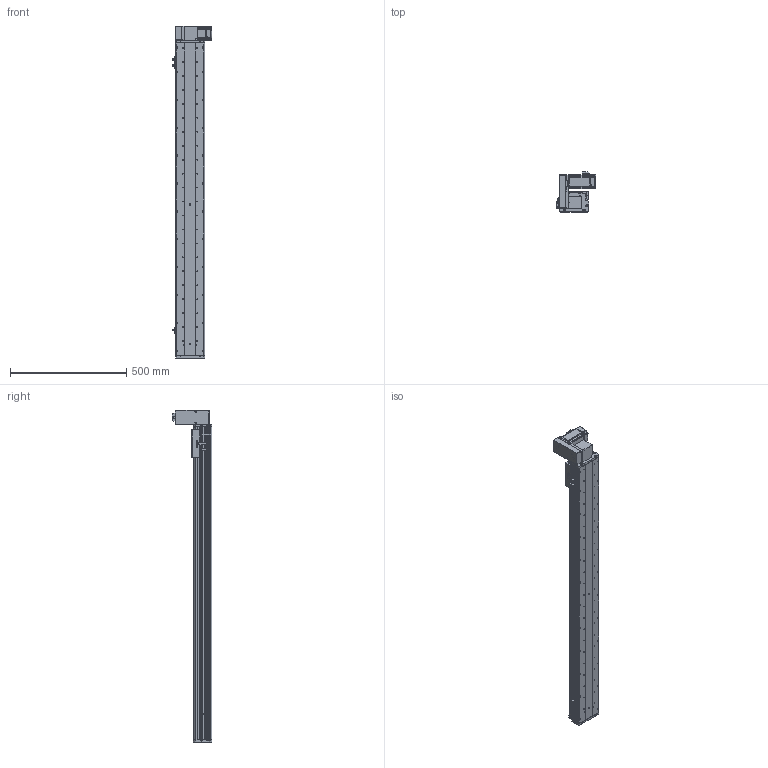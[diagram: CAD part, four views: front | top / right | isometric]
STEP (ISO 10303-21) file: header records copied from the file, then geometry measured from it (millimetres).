
FILE_DESCRIPTION (( 'STEP AP214' ), '1' );
FILE_NAME ('KSD125B-S1150-MRU-CM.STEP', '2017-10-21T07:43:26', ( '微软用户' ), ( '微软中国' ), 'SwSTEP 2.0', 'SolidWorks 2014', '' );
FILE_SCHEMA (( 'AUTOMOTIVE_DESIGN' ));
Length unit declared in the file: millimetre
Products named in the file (18): 125模组同步带-尾端板1; KSD125模组同步带-滑动座1; KSD125B-S1150-MRU-CM; 悵誘欶奻狟殏; HTPA30S3M150_A_H6_a佪裝蚚; HTPA30S3M150_A_H6_a萇儂蚚; 100宽马达安装板连板上下折丝杆同步带; KSD125模组1150行程同步带-防尘盖; 125模组1150行程同步带-底板; MHMD042G1CA_2_03; KSD125模组同步带-防撞垫2; 覜茼え68遵圉猾敕; U倰嫖萇假蚾璃; U倰嫖萇EEㄜSX672; KSD125模组同步带-防撞垫1; KSD125-肮祭謫盓傅釱21; 100宽马达安装板同步带右; 前端板-125宽模组同步带
Assembly tree (21 placements, depth 2):
  KSD125B-S1150-MRU-CM
    KSD125模组同步带-滑动座1
    125模组同步带-尾端板1
    前端板-125宽模组同步带
    100宽马达安装板同步带右
    KSD125-肮祭謫盓傅釱21
    KSD125模组同步带-防撞垫1
    U倰嫖萇EEㄜSX672  x3
    U倰嫖萇假蚾璃  x3
    覜茼え68遵圉猾敕
    KSD125模组同步带-防撞垫2
    MHMD042G1CA_2_03
    125模组1150行程同步带-底板
    KSD125模组1150行程同步带-防尘盖
    100宽马达安装板连板上下折丝杆同步带
    HTPA30S3M150_A_H6_a萇儂蚚
    HTPA30S3M150_A_H6_a佪裝蚚
    悵誘欶奻狟殏
Bounding box: 168.7 x 170.5 x 1427 mm (x, y, z)
Volume: 4349053.3 mm3; surface area: 1455992.5 mm2
Topology: 20 solids, 23 shells, 2374 faces, 6874 edges, 4540 vertices
Faces by surface type: cylinder 1498, plane 743, cone 111, bspline 22
Entity records: 85045 total; most frequent: CARTESIAN_POINT 16764, DIRECTION 13157, ORIENTED_EDGE 12260, EDGE_CURVE 6208, AXIS2_PLACEMENT_3D 5095, VERTEX_POINT 4132, VECTOR 2967, LINE 2967
